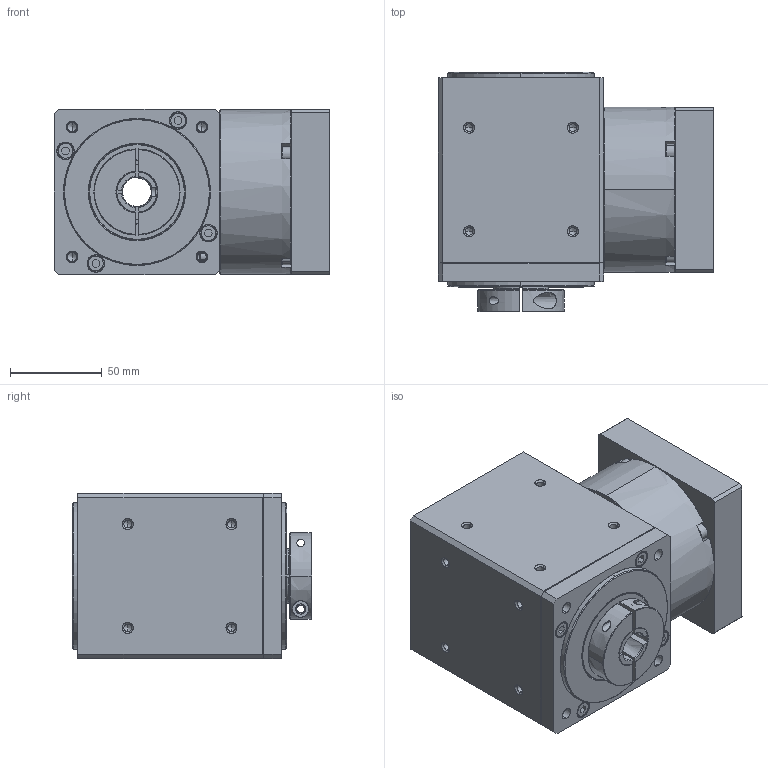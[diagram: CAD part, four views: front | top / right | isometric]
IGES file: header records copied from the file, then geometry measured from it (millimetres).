
Start section: SolidWorks IGES file using analytic representation for surfaces
Global section: file name: C:\Users\render\Documents\CAD Files\Gearboxes\R-Gearboxes\RXHS\RLHS\RLHS-090-0XX\RLHS-090-005.IGS; native system: SolidWorks 2011; preprocessor: SolidWorks 2011; author: render; date: 120529.160943; units: millimetre
Bounding box: 150 x 130.5 x 90 mm (x, y, z)
Surface area: 232639.2 mm2 (no closed solid volume)
Topology: 0 solids, 0 shells, 1245 faces, 20753 edges, 20660 vertices
Faces by surface type: revolution 790, bspline 455
